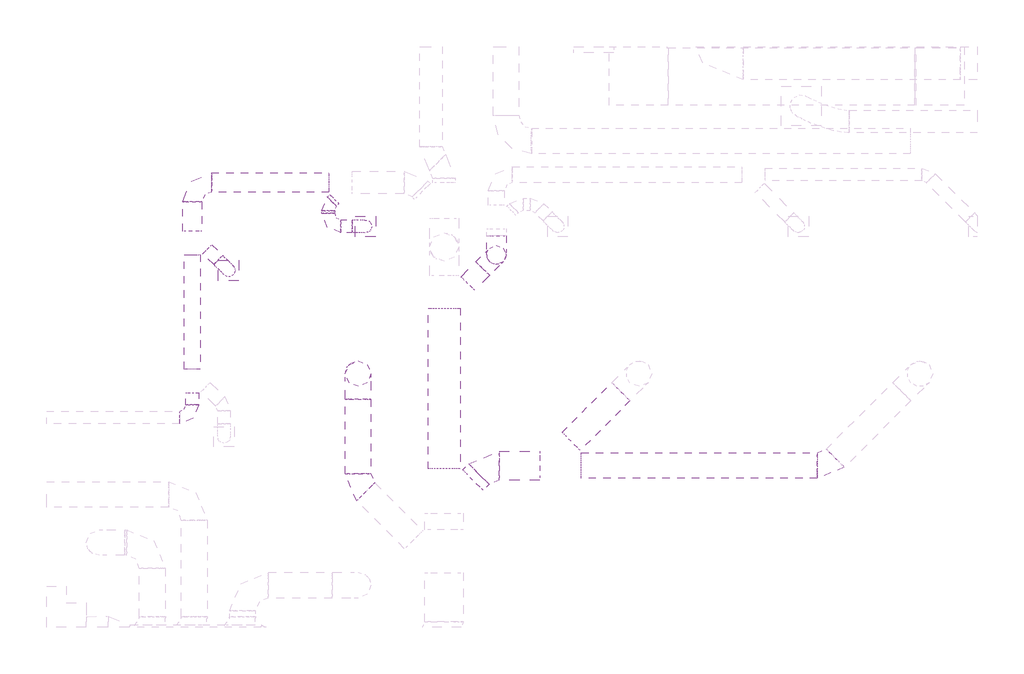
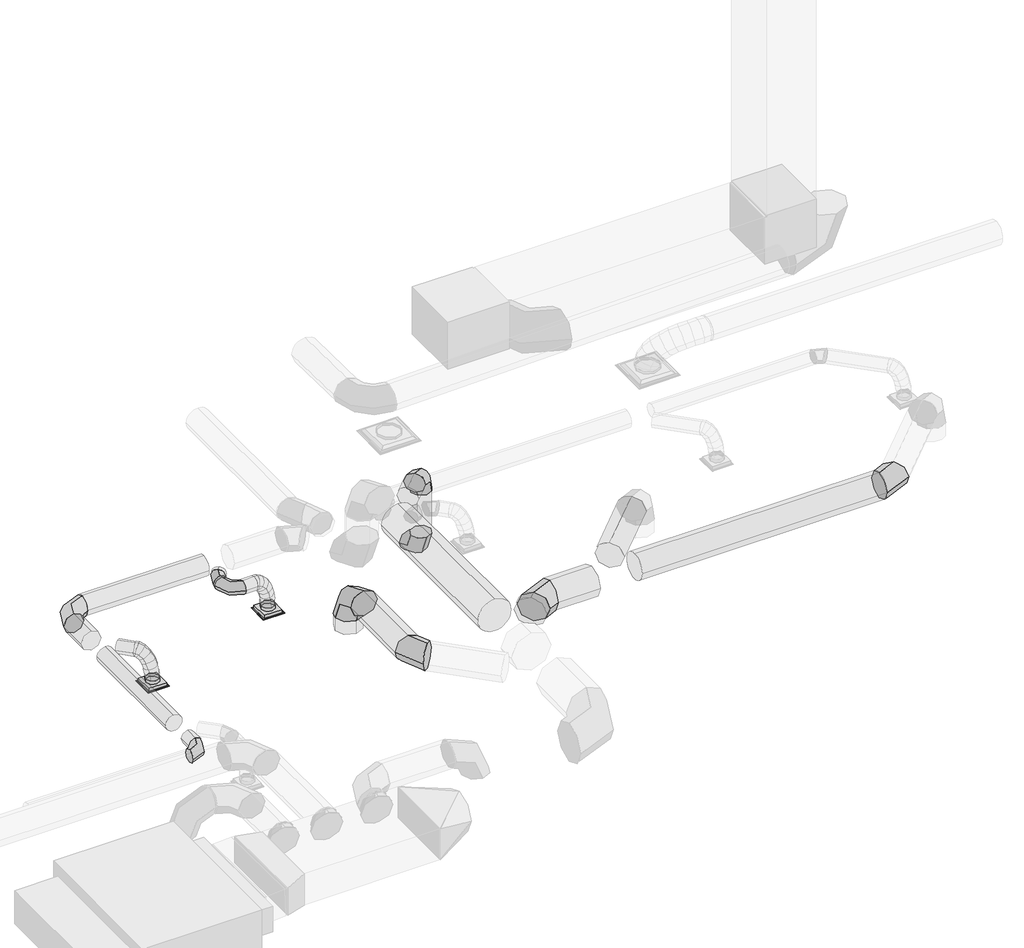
# One storey, part 8 of 33: 19 duct segments, 10 duct fittings, 2 air terminals.
"""IFC4 building model written with IfcOpenShell, lengths in millimetres."""

from ifc_helpers import new_model, si_unit, point, frame, frame_2d, origin, place, context, project, spatial, circle_curve, ellipse_curve, trimmed, segment, composite_curve, outline, extrude, transform, mapped, element, save
from ifc_brep_helpers import plane_surface, cylinder_surface, advanced_brep
from components import air_terminal_0721d01d, round_elbow_1_d_30de4f45, round_elbow_1_d_8aca8b6e, round_elbow_1_d_6b09a4cd, round_elbow_1_d_6f47ea7d, round_elbow_1_d_a253342a, round_elbow_1_d_281bc45b, round_elbow_1_d_ab3aa7ba

model = new_model("IFC4")

# Units and contexts
model_context = context("Model", 3, world=origin())
ifc_project = project(units=[si_unit("LENGTHUNIT", "METRE", prefix="MILLI")], contexts=[model_context])

# Site, building, storey
site = spatial("IfcSite", under=ifc_project)
building = spatial("IfcBuilding", under=site)
storey = spatial("IfcBuildingStorey", under=building, Name="T.O. SLAB - 1ST", Elevation=-25.4)

# Air terminals
placement = place(None, origin())
air_terminal_shape = air_terminal_0721d01d(model_context)
element("IfcAirTerminal", 1, ObjectType="Titus-Round_Neck_Supply_Diffuser-PCS_Surface_Mount : PCS AA-08_12x12", at=placement, inside=storey, context=model_context, shape_type="MappedRepresentation", body=[
    mapped(air_terminal_shape, transform((5671.7172745, 19697.894689, 3022.6), x_axis=(1.0, 0.0, 0.0), y_axis=(0.0, -1.0, 0.0), z_axis=(0.0, 0.0, -1.0))),
])
element("IfcAirTerminal", 2, ObjectType="Titus-Round_Neck_Supply_Diffuser-PCS_Surface_Mount : PCS AA-08_12x12", at=placement, inside=storey, context=model_context, shape_type="MappedRepresentation", body=[
    mapped(air_terminal_shape, transform((7836.0049003, 20392.8311449, 3022.6), x_axis=(1.0, 0.0, 0.0), y_axis=(0.0, -1.0, 0.0), z_axis=(0.0, 0.0, -1.0))),
])

# Duct fittings
round_elbow_1_d_shape = round_elbow_1_d_30de4f45(model_context)
element("IfcDuctFitting", 3, ObjectType="Round Elbow : 1 D", at=placement, inside=storey, context=model_context, shape_type="MappedRepresentation", body=[
    mapped(round_elbow_1_d_shape, transform((7721.5404612, 16306.933318, 4832.35), x_axis=(0.0, -1.0, 0.0), y_axis=(1.0, 0.0, 0.0), z_axis=(0.0, 0.0, 1.0))),
])
round_elbow_1_d_2_shape = round_elbow_1_d_8aca8b6e(model_context)
element("IfcDuctFitting", 4, ObjectType="Round Elbow : 1 D", at=placement, inside=storey, context=model_context, shape_type="MappedRepresentation", body=[
    mapped(round_elbow_1_d_2_shape, transform((7721.5404612, 18061.6910045, 4832.35), x_axis=(0.0, 0.0, 1.0), y_axis=(0.0, -1.0, 0.0), z_axis=(1.0, 0.0, 0.0))),
])
round_elbow_1_d_3_shape = round_elbow_1_d_6b09a4cd(model_context)
element("IfcDuctFitting", 5, ObjectType="Round Elbow : 1 D", at=placement, inside=storey, context=model_context, shape_type="MappedRepresentation", body=[
    mapped(round_elbow_1_d_3_shape, transform((9768.4424448, 16604.0160922, 4832.35), x_axis=(-1.0, 0.0, 0.0), y_axis=(0.0, -1.0, 0.0), z_axis=(0.0, 0.0, 1.0))),
])
round_elbow_1_d_4_shape = round_elbow_1_d_6f47ea7d(model_context)
element("IfcDuctFitting", 6, ObjectType="Round Elbow : 1 D", at=placement, inside=storey, context=model_context, shape_type="MappedRepresentation", body=[
    mapped(round_elbow_1_d_4_shape, transform((15163.0706857, 16604.0160922, 4832.35), x_axis=(1.0, 0.0, 0.0), y_axis=(0.0, 1.0, 0.0), z_axis=(0.0, 0.0, 1.0))),
])
round_elbow_1_d_5_shape = round_elbow_1_d_a253342a(model_context)
element("IfcDuctFitting", 7, ObjectType="Round Elbow : 1 D", at=placement, inside=storey, context=model_context, shape_type="MappedRepresentation", body=[
    mapped(round_elbow_1_d_5_shape, transform((7246.7253102, 20395.6487533, 3530.6), x_axis=(0.0, -1.0, 0.0), y_axis=(1.0, 0.0, 0.0), z_axis=(0.0, 0.0, 1.0))),
])
element("IfcDuctFitting", 8, ObjectType="Round Elbow : 1 D", at=placement, inside=storey, context=model_context, shape_type="MappedRepresentation", body=[
    mapped(round_elbow_1_d_5_shape, transform((5096.4746068, 17366.1965841, 3530.6), x_axis=(1.0, 0.0, 0.0), y_axis=(0.0, 1.0, 0.0), z_axis=(0.0, 0.0, 1.0))),
])
round_elbow_1_d_6_shape = round_elbow_1_d_281bc45b(model_context)
element("IfcDuctFitting", 9, ObjectType="Round Elbow : 1 D", at=placement, inside=storey, context=model_context, shape_type="MappedRepresentation", body=[
    mapped(round_elbow_1_d_6_shape, transform((5096.4746068, 21089.8177486, 3530.6), x_axis=(-1.0, 0.0, 0.0), y_axis=(0.0, -1.0, 0.0), z_axis=(0.0, 0.0, 1.0))),
])
element("IfcDuctFitting", 10, ObjectType="Round Elbow : 1 D", at=placement, inside=storey, context=model_context, shape_type="MappedRepresentation", body=[
    mapped(round_elbow_1_d_6_shape, transform((9912.239654, 19940.9173696, 4832.35), x_axis=(0.7071067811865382, 0.7071067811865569, 0.0), y_axis=(0.0, 0.0, -1.0), z_axis=(-0.7071067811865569, 0.7071067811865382, 0.0))),
])
element("IfcDuctFitting", 11, ObjectType="Round Elbow : 1 D", at=placement, inside=storey, context=model_context, shape_type="MappedRepresentation", body=[
    mapped(round_elbow_1_d_6_shape, transform((9912.239654, 19940.9173696, 3530.6), x_axis=(0.0, 0.0, -1.0), y_axis=(0.0, 1.0, 0.0), z_axis=(1.0, 0.0, 0.0))),
])
round_elbow_1_d_7_shape = round_elbow_1_d_ab3aa7ba(model_context)
element("IfcDuctFitting", 12, ObjectType="Round Elbow : 1 D", at=placement, inside=storey, context=model_context, shape_type="MappedRepresentation", body=[
    mapped(round_elbow_1_d_7_shape, transform((7246.7253102, 20728.0248248, 3530.6), x_axis=(-0.7071067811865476, -0.7071067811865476, 0.0), y_axis=(0.7071067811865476, -0.7071067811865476, 0.0), z_axis=(0.0, 0.0, 1.0))),
])

# Duct segments
element("IfcDuctSegment", 13, ObjectType="Flex - Round", at=placement, inside=storey, context=model_context, shape_type="AdvancedBrep", body=[
    advanced_brep(
    [(5578.3011345, 19934.9949269, 3530.6), (5506.4590856, 19863.152878, 3429.0), (5434.6170366, 19791.310829, 3530.6), (5506.4590856, 19863.152878, 3632.2), (5597.1151702, 19916.1808912, 3530.6), (5510.4922966, 19859.1196669, 3429.0), (5453.4310723, 19772.4967933, 3530.6), (5540.0539459, 19829.5580176, 3632.2), (5743.5593235, 19769.736738, 3117.85), (5743.5593235, 19626.05264, 3117.85), (5599.8752255, 19626.05264, 3117.85), (5599.8752255, 19769.736738, 3117.85), (5629.3616485, 19883.9344129, 3511.0056443), (5518.4315551, 19851.1804084, 3424.175763), (5485.6775506, 19740.250315, 3511.0056443), (5596.607644, 19773.0043195, 3597.8355257), (5670.8343835, 19842.4616779, 3458.7258396), (5543.0613324, 19826.5506311, 3393.1278963), (5527.1502856, 19698.77758, 3458.7258396), (5654.9233367, 19714.6886268, 3524.323783), (5702.854929, 19810.4411324, 3383.5154794), (5565.8691269, 19803.7428366, 3339.5565904), (5559.1708311, 19666.7570345, 3383.5154794), (5696.1566333, 19673.4553303, 3427.4743683), (5725.5588745, 19787.7371869, 3295.129457), (5584.4344389, 19785.1775246, 3267.2821883), (5581.8747766, 19644.053089, 3295.129457), (5722.9992122, 19646.6127514, 3322.9767258), (5739.0818095, 19774.214252, 3203.3226661), (5595.9954943, 19773.6164692, 3188.7945376), (5595.3977115, 19630.530154, 3203.3226661), (5738.4840267, 19631.1279368, 3217.8507946), (5743.5593235, 19769.736738, 3125.3563682), (5599.8752255, 19769.736738, 3121.237344), (5599.8752255, 19626.05264, 3125.3563682), (5743.5593235, 19626.05264, 3129.4753924)],
    [
        (0, 1, circle_curve(frame((5506.4590856, 19863.152878, 3530.6), z_axis=(-0.7071067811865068, 0.7071067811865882, 0.0), x_axis=(0.7071067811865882, 0.7071067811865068, 0.0)), 101.6)),
        (1, 2, circle_curve(frame((5506.4590856, 19863.152878, 3530.6), z_axis=(-0.7071067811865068, 0.7071067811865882, 0.0), x_axis=(0.7071067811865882, 0.7071067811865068, 0.0)), 101.6)),
        (2, 3, circle_curve(frame((5506.4590856, 19863.152878, 3530.6), z_axis=(-0.7071067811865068, 0.7071067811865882, 0.0), x_axis=(0.7071067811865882, 0.7071067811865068, 0.0)), 101.6)),
        (3, 0, circle_curve(frame((5506.4590856, 19863.152878, 3530.6), z_axis=(-0.7071067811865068, 0.7071067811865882, 0.0), x_axis=(0.7071067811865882, 0.7071067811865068, 0.0)), 101.6)),
        (0, 4),
        (4, 5, ellipse_curve(frame((5525.2731213, 19844.3388422, 3530.6), z_axis=(-0.6926001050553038, 0.6926001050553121, 0.20151969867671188), x_axis=(-0.14249594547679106, 0.14249594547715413, -0.979484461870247)), 103.7280365, 101.6)),
        (5, 1),
        (5, 6, ellipse_curve(frame((5525.2731213, 19844.3388422, 3530.6), z_axis=(-0.6926001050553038, 0.6926001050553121, 0.20151969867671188), x_axis=(-0.14249594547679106, 0.14249594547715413, -0.979484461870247)), 103.7280365, 101.6)),
        (6, 2),
        (6, 7, ellipse_curve(frame((5525.2731213, 19844.3388422, 3530.6), z_axis=(-0.6926001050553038, 0.6926001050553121, 0.20151969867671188), x_axis=(-0.14249594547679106, 0.14249594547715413, -0.979484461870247)), 103.7280365, 101.6)),
        (7, 3),
        (7, 4, ellipse_curve(frame((5525.2731213, 19844.3388422, 3530.6), z_axis=(-0.6926001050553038, 0.6926001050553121, 0.20151969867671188), x_axis=(-0.14249594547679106, 0.14249594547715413, -0.979484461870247)), 103.7280365, 101.6)),
        (8, 9, circle_curve(frame((5671.7172745, 19697.894689, 3117.85), z_axis=(0.0, 0.0, -1.0), x_axis=(0.7071067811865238, 0.7071067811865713, 0.0)), 101.6)),
        (9, 10, circle_curve(frame((5671.7172745, 19697.894689, 3117.85), z_axis=(0.0, 0.0, -1.0), x_axis=(0.7071067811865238, 0.7071067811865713, 0.0)), 101.6)),
        (10, 11, circle_curve(frame((5671.7172745, 19697.894689, 3117.85), z_axis=(0.0, 0.0, -1.0), x_axis=(0.7071067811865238, 0.7071067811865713, 0.0)), 101.6)),
        (11, 8, circle_curve(frame((5671.7172745, 19697.894689, 3117.85), z_axis=(0.0, 0.0, -1.0), x_axis=(0.7071067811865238, 0.7071067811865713, 0.0)), 101.6)),
        (4, 12),
        (12, 13, ellipse_curve(frame((5557.5195996, 19812.0923639, 3511.0056443), z_axis=(-0.5964857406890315, 0.5964857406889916, 0.5370377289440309), x_axis=(-0.37974301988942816, 0.3797430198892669, -0.8435582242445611)), 102.9328846, 101.6)),
        (13, 5),
        (13, 14, ellipse_curve(frame((5557.5195996, 19812.0923639, 3511.0056443), z_axis=(-0.5964857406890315, 0.5964857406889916, 0.5370377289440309), x_axis=(-0.37974301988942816, 0.3797430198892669, -0.8435582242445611)), 102.9328846, 101.6)),
        (14, 6),
        (14, 15, ellipse_curve(frame((5557.5195996, 19812.0923639, 3511.0056443), z_axis=(-0.5964857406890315, 0.5964857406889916, 0.5370377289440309), x_axis=(-0.37974301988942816, 0.3797430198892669, -0.8435582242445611)), 102.9328846, 101.6)),
        (15, 7),
        (15, 12, ellipse_curve(frame((5557.5195996, 19812.0923639, 3511.0056443), z_axis=(-0.5964857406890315, 0.5964857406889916, 0.5370377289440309), x_axis=(-0.37974301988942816, 0.3797430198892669, -0.8435582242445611)), 102.9328846, 101.6)),
        (12, 16),
        (16, 17, ellipse_curve(frame((5598.9923346, 19770.6196289, 3458.7258396), z_axis=(-0.45138859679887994, 0.4513885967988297, 0.7697380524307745), x_axis=(-0.5442869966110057, 0.5442869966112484, -0.638359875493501)), 102.7601293, 101.6)),
        (17, 13),
        (17, 18, ellipse_curve(frame((5598.9923346, 19770.6196289, 3458.7258396), z_axis=(-0.45138859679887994, 0.4513885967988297, 0.7697380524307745), x_axis=(-0.5442869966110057, 0.5442869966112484, -0.638359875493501)), 102.7601293, 101.6)),
        (18, 14),
        (18, 19, ellipse_curve(frame((5598.9923346, 19770.6196289, 3458.7258396), z_axis=(-0.45138859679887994, 0.4513885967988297, 0.7697380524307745), x_axis=(-0.5442869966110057, 0.5442869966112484, -0.638359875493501)), 102.7601293, 101.6)),
        (19, 15),
        (19, 16, ellipse_curve(frame((5598.9923346, 19770.6196289, 3458.7258396), z_axis=(-0.45138859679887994, 0.4513885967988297, 0.7697380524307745), x_axis=(-0.5442869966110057, 0.5442869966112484, -0.638359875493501)), 102.7601293, 101.6)),
        (16, 20),
        (20, 21, ellipse_curve(frame((5631.0128801, 19738.5990835, 3383.5154794), z_axis=(-0.30451030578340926, 0.3045103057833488, 0.9025225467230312), x_axis=(-0.6381798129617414, 0.6381798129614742, -0.43064260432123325)), 102.0774269, 101.6)),
        (21, 17),
        (21, 22, ellipse_curve(frame((5631.0128801, 19738.5990835, 3383.5154794), z_axis=(-0.30451030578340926, 0.3045103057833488, 0.9025225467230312), x_axis=(-0.6381798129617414, 0.6381798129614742, -0.43064260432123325)), 102.0774269, 101.6)),
        (22, 18),
        (22, 23, ellipse_curve(frame((5631.0128801, 19738.5990835, 3383.5154794), z_axis=(-0.30451030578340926, 0.3045103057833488, 0.9025225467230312), x_axis=(-0.6381798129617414, 0.6381798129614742, -0.43064260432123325)), 102.0774269, 101.6)),
        (23, 19),
        (23, 20, ellipse_curve(frame((5631.0128801, 19738.5990835, 3383.5154794), z_axis=(-0.30451030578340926, 0.3045103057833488, 0.9025225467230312), x_axis=(-0.6381798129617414, 0.6381798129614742, -0.43064260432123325)), 102.0774269, 101.6)),
        (20, 24),
        (24, 25, ellipse_curve(frame((5653.7168255, 19715.895138, 3295.129457), z_axis=(-0.1933132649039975, 0.19331326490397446, 0.9619043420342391), x_axis=(-0.6801690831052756, 0.6801690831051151, -0.27338624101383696)), 101.8605349, 101.6)),
        (25, 21),
        (25, 26, ellipse_curve(frame((5653.7168255, 19715.895138, 3295.129457), z_axis=(-0.1933132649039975, 0.19331326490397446, 0.9619043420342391), x_axis=(-0.6801690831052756, 0.6801690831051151, -0.27338624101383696)), 101.8605349, 101.6)),
        (26, 22),
        (26, 27, ellipse_curve(frame((5653.7168255, 19715.895138, 3295.129457), z_axis=(-0.1933132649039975, 0.19331326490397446, 0.9619043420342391), x_axis=(-0.6801690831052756, 0.6801690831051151, -0.27338624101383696)), 101.8605349, 101.6)),
        (27, 23),
        (27, 24, ellipse_curve(frame((5653.7168255, 19715.895138, 3295.129457), z_axis=(-0.1933132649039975, 0.19331326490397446, 0.9619043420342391), x_axis=(-0.6801690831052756, 0.6801690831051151, -0.27338624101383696)), 101.8605349, 101.6)),
        (24, 28),
        (28, 29, ellipse_curve(frame((5667.2397605, 19702.372203, 3203.3226661), z_axis=(-0.10091627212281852, 0.10091627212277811, 0.9897635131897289), x_axis=(-0.6998684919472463, 0.6998684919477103, -0.14271716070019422)), 101.7966475, 101.6)),
        (29, 25),
        (29, 30, ellipse_curve(frame((5667.2397605, 19702.372203, 3203.3226661), z_axis=(-0.10091627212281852, 0.10091627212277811, 0.9897635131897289), x_axis=(-0.6998684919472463, 0.6998684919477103, -0.14271716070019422)), 101.7966475, 101.6)),
        (30, 26),
        (30, 31, ellipse_curve(frame((5667.2397605, 19702.372203, 3203.3226661), z_axis=(-0.10091627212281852, 0.10091627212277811, 0.9897635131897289), x_axis=(-0.6998684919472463, 0.6998684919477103, -0.14271716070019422)), 101.7966475, 101.6)),
        (31, 27),
        (31, 28, ellipse_curve(frame((5667.2397605, 19702.372203, 3203.3226661), z_axis=(-0.10091627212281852, 0.10091627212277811, 0.9897635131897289), x_axis=(-0.6998684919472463, 0.6998684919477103, -0.14271716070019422)), 101.7966475, 101.6)),
        (28, 32),
        (32, 33, ellipse_curve(frame((5671.7172745, 19697.894689, 3125.3563682), z_axis=(-0.028643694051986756, 0.02864369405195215, 0.9991792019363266), x_axis=(-0.7065263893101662, 0.7065263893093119, -0.04050830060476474)), 101.6834616, 101.6)),
        (33, 29),
        (33, 34, ellipse_curve(frame((5671.7172745, 19697.894689, 3125.3563682), z_axis=(-0.028643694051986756, 0.02864369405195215, 0.9991792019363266), x_axis=(-0.7065263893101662, 0.7065263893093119, -0.04050830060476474)), 101.6834616, 101.6)),
        (34, 30),
        (34, 35, ellipse_curve(frame((5671.7172745, 19697.894689, 3125.3563682), z_axis=(-0.028643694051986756, 0.02864369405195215, 0.9991792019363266), x_axis=(-0.7065263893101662, 0.7065263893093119, -0.04050830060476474)), 101.6834616, 101.6)),
        (35, 31),
        (35, 32, ellipse_curve(frame((5671.7172745, 19697.894689, 3125.3563682), z_axis=(-0.028643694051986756, 0.02864369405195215, 0.9991792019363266), x_axis=(-0.7065263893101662, 0.7065263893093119, -0.04050830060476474)), 101.6834616, 101.6)),
        (32, 8),
        (11, 33),
        (10, 34),
        (9, 35),
    ],
    [
        plane_surface(frame((5506.4590856, 19863.152878, 3429.0), z_axis=(-0.7071067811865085, 0.7071067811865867, 0.0), x_axis=(0.7071067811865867, 0.7071067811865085, 0.0))),
        cylinder_surface(frame((5506.4590856, 19863.152878, 3530.6), z_axis=(-0.7071067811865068, 0.7071067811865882, 0.0), x_axis=(0.7071067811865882, 0.7071067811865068, 0.0)), 101.6),
        plane_surface(frame((5671.7172745, 19596.294689, 3117.85), z_axis=(0.0, 0.0, -1.0), x_axis=(-1.0, 0.0, 0.0))),
        cylinder_surface(frame((5525.2731213, 19844.3388422, 3530.6), z_axis=(-0.6496753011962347, 0.6496753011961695, 0.39477082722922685), x_axis=(0.7071067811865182, 0.7071067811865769, 0.0)), 101.6),
        cylinder_surface(frame((5557.5195996, 19812.0923639, 3511.0056443), z_axis=(-0.5278483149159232, 0.5278483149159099, 0.6653963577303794), x_axis=(0.7071067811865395, 0.7071067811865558, 0.0)), 101.6),
        cylinder_surface(frame((5598.9923346, 19770.6196289, 3458.7258396), z_axis=(-0.3647368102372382, 0.3647368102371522, 0.8566995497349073), x_axis=(0.7071067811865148, 0.7071067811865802, 0.0)), 101.6),
        cylinder_surface(frame((5631.0128801, 19738.5990835, 3383.5154794), z_axis=(-0.24143534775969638, 0.24143534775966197, 0.9399031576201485), x_axis=(0.7071067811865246, 0.7071067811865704, 0.0)), 101.6),
        cylinder_surface(frame((5653.7168255, 19715.895138, 3295.129457), z_axis=(-0.14420228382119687, 0.14420228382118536, 0.978984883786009), x_axis=(0.7071067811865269, 0.7071067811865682, 0.0)), 101.6),
        cylinder_surface(frame((5667.2397605, 19702.372203, 3203.3226661), z_axis=(-0.05724036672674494, 0.05724036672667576, 0.9967181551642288), x_axis=(0.7071067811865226, 0.7071067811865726, 0.0)), 101.6),
        cylinder_surface(frame((5671.7172745, 19697.894689, 3125.3563682), z_axis=(0.0, 0.0, 1.0), x_axis=(0.7071067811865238, 0.7071067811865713, 0.0)), 101.6),
    ],
    [
        (0, [[1, 2, 3, 4]]),
        (1, [[-1, 5, 6, 7]]),
        (1, [[-2, -7, 8, 9]]),
        (1, [[-3, -9, 10, 11]]),
        (1, [[-4, -11, 12, -5]]),
        (2, [[13, 14, 15, 16]]),
        (3, [[-6, 17, 18, 19]]),
        (3, [[-8, -19, 20, 21]]),
        (3, [[-10, -21, 22, 23]]),
        (3, [[-12, -23, 24, -17]]),
        (4, [[-18, 25, 26, 27]]),
        (4, [[-20, -27, 28, 29]]),
        (4, [[-22, -29, 30, 31]]),
        (4, [[-24, -31, 32, -25]]),
        (5, [[-26, 33, 34, 35]]),
        (5, [[-28, -35, 36, 37]]),
        (5, [[-30, -37, 38, 39]]),
        (5, [[-32, -39, 40, -33]]),
        (6, [[-34, 41, 42, 43]]),
        (6, [[-36, -43, 44, 45]]),
        (6, [[-38, -45, 46, 47]]),
        (6, [[-40, -47, 48, -41]]),
        (7, [[-42, 49, 50, 51]]),
        (7, [[-44, -51, 52, 53]]),
        (7, [[-46, -53, 54, 55]]),
        (7, [[-48, -55, 56, -49]]),
        (8, [[-50, 57, 58, 59]]),
        (8, [[-52, -59, 60, 61]]),
        (8, [[-54, -61, 62, 63]]),
        (8, [[-56, -63, 64, -57]]),
        (9, [[-58, 65, -16, 66]]),
        (9, [[-60, -66, -15, 67]]),
        (9, [[-62, -67, -14, 68]]),
        (9, [[-64, -68, -13, -65]]),
    ],
),
])
element("IfcDuctSegment", 14, ObjectType="Flex - Round", at=placement, inside=storey, context=model_context, shape_type="AdvancedBrep", body=[
    advanced_brep(
    [(7632.8051157, 20497.2487533, 3530.6), (7632.8051157, 20395.6487533, 3429.0), (7632.8051157, 20294.0487533, 3530.6), (7632.8051157, 20395.6487533, 3632.2), (7661.5088545, 20497.2487533, 3530.6), (7637.2726559, 20395.6487533, 3429.0), (7661.006361, 20294.0487533, 3530.6), (7685.2425596, 20395.6487533, 3632.2), (7836.8313144, 20494.4277838, 3117.85), (7937.6015392, 20392.0047307, 3117.85), (7835.1784861, 20291.2345059, 3117.85), (7734.4082613, 20393.657559, 3117.85), (7701.7169846, 20497.0381538, 3510.4953874), (7640.7160883, 20395.6307175, 3427.2782369), (7700.49366, 20293.8419293, 3510.8558128), (7761.4945563, 20395.2493656, 3594.0729632), (7754.445882, 20496.5144899, 3457.2980356), (7670.1595865, 20395.3383067, 3397.5731566), (7752.8430297, 20293.3220346, 3458.0413604), (7837.1293253, 20394.4982177, 3517.7662394), (7792.7795757, 20495.8350263, 3381.2327951), (7696.8986392, 20394.8643578, 3344.515069), (7791.0469211, 20292.6448718, 3382.2336857), (7886.9278575, 20393.6155403, 3418.9514119), (7818.2649093, 20495.1568157, 3292.5301284), (7717.9930078, 20394.3029987, 3271.0953218), (7816.5399545, 20291.9664562, 3293.5042193), (7916.811856, 20392.8202732, 3314.9390259), (7832.4417219, 20494.6358996, 3201.3365269), (7730.4452052, 20393.8454523, 3190.9954606), (7830.7637552, 20291.4438136, 3202.0083628), (7932.7602719, 20392.2342609, 3212.3494291), (7836.8313144, 20494.4277838, 3123.0726068), (7734.4082613, 20393.657559, 3120.3364399), (7835.1784861, 20291.2345059, 3123.2962406), (7937.6015392, 20392.0047307, 3126.0324074)],
    [
        (0, 1, circle_curve(frame((7632.8051157, 20395.6487533, 3530.6), z_axis=(-1.0, 0.0, 0.0), x_axis=(0.0, 1.0, 0.0)), 101.6)),
        (1, 2, circle_curve(frame((7632.8051157, 20395.6487533, 3530.6), z_axis=(-1.0, 0.0, 0.0), x_axis=(0.0, 1.0, 0.0)), 101.6)),
        (2, 3, circle_curve(frame((7632.8051157, 20395.6487533, 3530.6), z_axis=(-1.0, 0.0, 0.0), x_axis=(0.0, 1.0, 0.0)), 101.6)),
        (3, 0, circle_curve(frame((7632.8051157, 20395.6487533, 3530.6), z_axis=(-1.0, 0.0, 0.0), x_axis=(0.0, 1.0, 0.0)), 101.6)),
        (0, 4),
        (4, 5, ellipse_curve(frame((7661.2576077, 20395.6487533, 3530.6), z_axis=(-0.9732452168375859, 0.0024067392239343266, 0.22975629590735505), x_axis=(-0.22976890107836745, -0.010194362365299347, -0.9731918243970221)), 104.3930124, 101.6)),
        (5, 1),
        (5, 6, ellipse_curve(frame((7661.2576077, 20395.6487533, 3530.6), z_axis=(-0.9732452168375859, 0.0024067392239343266, 0.22975629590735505), x_axis=(-0.22976890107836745, -0.010194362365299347, -0.9731918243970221)), 104.3930124, 101.6)),
        (6, 2),
        (6, 7, ellipse_curve(frame((7661.2576077, 20395.6487533, 3530.6), z_axis=(-0.9732452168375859, 0.0024067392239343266, 0.22975629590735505), x_axis=(-0.22976890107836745, -0.010194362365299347, -0.9731918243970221)), 104.3930124, 101.6)),
        (7, 3),
        (7, 4, ellipse_curve(frame((7661.2576077, 20395.6487533, 3530.6), z_axis=(-0.9732452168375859, 0.0024067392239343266, 0.22975629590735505), x_axis=(-0.22976890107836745, -0.010194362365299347, -0.9731918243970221)), 104.3930124, 101.6)),
        (8, 9, circle_curve(frame((7836.0049003, 20392.8311449, 3117.85), z_axis=(0.0, 0.0, -1.0), x_axis=(0.008133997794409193, 0.9999669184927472, 0.0)), 101.6)),
        (9, 10, circle_curve(frame((7836.0049003, 20392.8311449, 3117.85), z_axis=(0.0, 0.0, -1.0), x_axis=(0.008133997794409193, 0.9999669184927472, 0.0)), 101.6)),
        (10, 11, circle_curve(frame((7836.0049003, 20392.8311449, 3117.85), z_axis=(0.0, 0.0, -1.0), x_axis=(0.008133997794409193, 0.9999669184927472, 0.0)), 101.6)),
        (11, 8, circle_curve(frame((7836.0049003, 20392.8311449, 3117.85), z_axis=(0.0, 0.0, -1.0), x_axis=(0.008133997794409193, 0.9999669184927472, 0.0)), 101.6)),
        (4, 12),
        (12, 13, ellipse_curve(frame((7701.1053223, 20395.4400415, 3510.6756001), z_axis=(-0.8099305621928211, 0.005916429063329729, 0.5864959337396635), x_axis=(-0.5865254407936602, -0.007102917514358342, -0.8098996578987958)), 102.9662039, 101.6)),
        (13, 5),
        (13, 14, ellipse_curve(frame((7701.1053223, 20395.4400415, 3510.6756001), z_axis=(-0.8099305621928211, 0.005916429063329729, 0.5864959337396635), x_axis=(-0.5865254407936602, -0.007102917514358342, -0.8098996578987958)), 102.9662039, 101.6)),
        (14, 6),
        (14, 15, ellipse_curve(frame((7701.1053223, 20395.4400415, 3510.6756001), z_axis=(-0.8099305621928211, 0.005916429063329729, 0.5864959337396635), x_axis=(-0.5865254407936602, -0.007102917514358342, -0.8098996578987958)), 102.9662039, 101.6)),
        (15, 7),
        (15, 12, ellipse_curve(frame((7701.1053223, 20395.4400415, 3510.6756001), z_axis=(-0.8099305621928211, 0.005916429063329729, 0.5864959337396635), x_axis=(-0.5865254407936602, -0.007102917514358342, -0.8098996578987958)), 102.9662039, 101.6)),
        (12, 16),
        (16, 17, ellipse_curve(frame((7753.6444559, 20394.9182622, 3457.669698), z_axis=(-0.5841823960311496, 0.007577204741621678, 0.8115870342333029), x_axis=(-0.8116202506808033, -0.003149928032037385, -0.5841768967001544)), 102.8664573, 101.6)),
        (17, 13),
        (17, 18, ellipse_curve(frame((7753.6444559, 20394.9182622, 3457.669698), z_axis=(-0.5841823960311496, 0.007577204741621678, 0.8115870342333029), x_axis=(-0.8116202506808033, -0.003149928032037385, -0.5841768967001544)), 102.8664573, 101.6)),
        (18, 14),
        (18, 19, ellipse_curve(frame((7753.6444559, 20394.9182622, 3457.669698), z_axis=(-0.5841823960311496, 0.007577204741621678, 0.8115870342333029), x_axis=(-0.8116202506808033, -0.003149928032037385, -0.5841768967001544)), 102.8664573, 101.6)),
        (19, 15),
        (19, 16, ellipse_curve(frame((7753.6444559, 20394.9182622, 3457.669698), z_axis=(-0.5841823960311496, 0.007577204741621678, 0.8115870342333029), x_axis=(-0.8116202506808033, -0.003149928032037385, -0.5841768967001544)), 102.8664573, 101.6)),
        (16, 20),
        (20, 21, ellipse_curve(frame((7791.9132484, 20394.2399491, 3381.7332404), z_axis=(-0.3646722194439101, 0.007696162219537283, 0.9311041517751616), x_axis=(-0.9311170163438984, 0.003364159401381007, -0.3647050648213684)), 102.0458662, 101.6)),
        (21, 17),
        (21, 22, ellipse_curve(frame((7791.9132484, 20394.2399491, 3381.7332404), z_axis=(-0.3646722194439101, 0.007696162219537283, 0.9311041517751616), x_axis=(-0.9311170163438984, 0.003364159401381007, -0.3647050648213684)), 102.0458662, 101.6)),
        (22, 18),
        (22, 23, ellipse_curve(frame((7791.9132484, 20394.2399491, 3381.7332404), z_axis=(-0.3646722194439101, 0.007696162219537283, 0.9311041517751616), x_axis=(-0.9311170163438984, 0.003364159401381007, -0.3647050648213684)), 102.0458662, 101.6)),
        (23, 19),
        (23, 20, ellipse_curve(frame((7791.9132484, 20394.2399491, 3381.7332404), z_axis=(-0.3646722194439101, 0.007696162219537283, 0.9311041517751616), x_axis=(-0.9311170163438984, 0.003364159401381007, -0.3647050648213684)), 102.0458662, 101.6)),
        (20, 24),
        (24, 25, ellipse_curve(frame((7817.4024319, 20393.5616359, 3293.0171738), z_axis=(-0.21529606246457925, 0.006509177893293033, 0.9765271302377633), x_axis=(-0.9764387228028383, 0.013580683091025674, -0.21536709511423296)), 101.8005522, 101.6)),
        (25, 21),
        (25, 26, ellipse_curve(frame((7817.4024319, 20393.5616359, 3293.0171738), z_axis=(-0.21529606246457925, 0.006509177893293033, 0.9765271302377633), x_axis=(-0.9764387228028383, 0.013580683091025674, -0.21536709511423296)), 101.8005522, 101.6)),
        (26, 22),
        (26, 27, ellipse_curve(frame((7817.4024319, 20393.5616359, 3293.0171738), z_axis=(-0.21529606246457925, 0.006509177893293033, 0.9765271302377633), x_axis=(-0.9764387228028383, 0.013580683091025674, -0.21536709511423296)), 101.8005522, 101.6)),
        (27, 23),
        (27, 24, ellipse_curve(frame((7817.4024319, 20393.5616359, 3293.0171738), z_axis=(-0.21529606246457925, 0.006509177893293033, 0.9765271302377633), x_axis=(-0.9764387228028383, 0.013580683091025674, -0.21536709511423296)), 101.8005522, 101.6)),
        (24, 28),
        (28, 29, ellipse_curve(frame((7831.6027385, 20393.0398566, 3201.6724448), z_axis=(-0.10493140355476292, 0.00415465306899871, 0.9944707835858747), x_axis=(-0.9940052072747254, 0.030441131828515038, -0.10500945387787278)), 101.7226927, 101.6)),
        (29, 25),
        (29, 30, ellipse_curve(frame((7831.6027385, 20393.0398566, 3201.6724448), z_axis=(-0.10493140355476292, 0.00415465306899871, 0.9944707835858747), x_axis=(-0.9940052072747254, 0.030441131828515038, -0.10500945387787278)), 101.7226927, 101.6)),
        (30, 26),
        (30, 31, ellipse_curve(frame((7831.6027385, 20393.0398566, 3201.6724448), z_axis=(-0.10493140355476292, 0.00415465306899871, 0.9944707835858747), x_axis=(-0.9940052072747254, 0.030441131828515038, -0.10500945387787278)), 101.7226927, 101.6)),
        (31, 27),
        (31, 28, ellipse_curve(frame((7831.6027385, 20393.0398566, 3201.6724448), z_axis=(-0.10493140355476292, 0.00415465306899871, 0.9944707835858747), x_axis=(-0.9940052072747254, 0.030441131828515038, -0.10500945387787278)), 101.7226927, 101.6)),
        (28, 32),
        (32, 33, ellipse_curve(frame((7836.0049003, 20392.8311449, 3123.1844237), z_axis=(-0.028010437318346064, 0.0013280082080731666, 0.9996067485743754), x_axis=(-0.9984851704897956, 0.047339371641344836, -0.028041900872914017)), 101.6399701, 101.6)),
        (33, 29),
        (33, 34, ellipse_curve(frame((7836.0049003, 20392.8311449, 3123.1844237), z_axis=(-0.028010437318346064, 0.0013280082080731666, 0.9996067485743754), x_axis=(-0.9984851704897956, 0.047339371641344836, -0.028041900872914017)), 101.6399701, 101.6)),
        (34, 30),
        (34, 35, ellipse_curve(frame((7836.0049003, 20392.8311449, 3123.1844237), z_axis=(-0.028010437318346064, 0.0013280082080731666, 0.9996067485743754), x_axis=(-0.9984851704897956, 0.047339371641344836, -0.028041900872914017)), 101.6399701, 101.6)),
        (35, 31),
        (35, 32, ellipse_curve(frame((7836.0049003, 20392.8311449, 3123.1844237), z_axis=(-0.028010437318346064, 0.0013280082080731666, 0.9996067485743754), x_axis=(-0.9984851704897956, 0.047339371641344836, -0.028041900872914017)), 101.6399701, 101.6)),
        (32, 8),
        (11, 33),
        (10, 34),
        (9, 35),
    ],
    [
        plane_surface(frame((7632.8051157, 20395.6487533, 3429.0), z_axis=(-1.0, 0.0, 0.0), x_axis=(0.0, 1.0, 0.0))),
        cylinder_surface(frame((7632.8051157, 20395.6487533, 3530.6), z_axis=(-1.0, 0.0, 0.0), x_axis=(0.0, 1.0, 0.0)), 101.6),
        plane_surface(frame((7836.0049003, 20291.2311449, 3117.85), z_axis=(0.0, 0.0, -1.0), x_axis=(-1.0, 0.0, 0.0))),
        cylinder_surface(frame((7661.2576077, 20395.6487533, 3530.6), z_axis=(-0.8944125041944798, 0.004684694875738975, 0.44721843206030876), x_axis=(0.004684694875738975, 0.9999884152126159, -0.0011059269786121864)), 101.6),
        cylinder_surface(frame((7701.1053223, 20395.4400415, 3510.6756001), z_axis=(-0.703955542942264, 0.006991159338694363, 0.7102096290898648), x_axis=(0.007071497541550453, 0.9999709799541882, -0.0028342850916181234)), 101.6),
        cylinder_surface(frame((7753.6444559, 20394.9182622, 3457.669698), z_axis=(-0.4500247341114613, 0.007976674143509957, 0.892980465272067), x_axis=(0.0084100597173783, 0.9999536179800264, -0.004693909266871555)), 101.6),
        cylinder_surface(frame((7791.9132484, 20394.2399491, 3381.7332404), z_axis=(-0.276132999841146, 0.007348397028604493, 0.9610913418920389), x_axis=(0.008598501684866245, 0.9999496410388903, -0.005175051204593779)), 101.6),
        cylinder_surface(frame((7817.4024319, 20393.5616359, 3293.0171738), z_axis=(-0.15361083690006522, 0.0056443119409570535, 0.9881153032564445), x_axis=(0.00842800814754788, 0.9999547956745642, -0.004401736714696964)), 101.6),
        cylinder_surface(frame((7831.6027385, 20393.0398566, 3201.6724448), z_axis=(-0.05599884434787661, 0.0026549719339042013, 0.9984273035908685), x_axis=(0.008195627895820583, 0.9999639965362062, -0.002199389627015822)), 101.6),
        cylinder_surface(frame((7836.0049003, 20392.8311449, 3123.1844237), z_axis=(0.0, 0.0, 1.0), x_axis=(0.008133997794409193, 0.9999669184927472, 0.0)), 101.6),
    ],
    [
        (0, [[1, 2, 3, 4]]),
        (1, [[-1, 5, 6, 7]]),
        (1, [[-2, -7, 8, 9]]),
        (1, [[-3, -9, 10, 11]]),
        (1, [[-4, -11, 12, -5]]),
        (2, [[13, 14, 15, 16]]),
        (3, [[-6, 17, 18, 19]]),
        (3, [[-8, -19, 20, 21]]),
        (3, [[-10, -21, 22, 23]]),
        (3, [[-12, -23, 24, -17]]),
        (4, [[-18, 25, 26, 27]]),
        (4, [[-20, -27, 28, 29]]),
        (4, [[-22, -29, 30, 31]]),
        (4, [[-24, -31, 32, -25]]),
        (5, [[-26, 33, 34, 35]]),
        (5, [[-28, -35, 36, 37]]),
        (5, [[-30, -37, 38, 39]]),
        (5, [[-32, -39, 40, -33]]),
        (6, [[-34, 41, 42, 43]]),
        (6, [[-36, -43, 44, 45]]),
        (6, [[-38, -45, 46, 47]]),
        (6, [[-40, -47, 48, -41]]),
        (7, [[-42, 49, 50, 51]]),
        (7, [[-44, -51, 52, 53]]),
        (7, [[-46, -53, 54, 55]]),
        (7, [[-48, -55, 56, -49]]),
        (8, [[-50, 57, 58, 59]]),
        (8, [[-52, -59, 60, 61]]),
        (8, [[-54, -61, 62, 63]]),
        (8, [[-56, -63, 64, -57]]),
        (9, [[-58, 65, -16, 66]]),
        (9, [[-60, -66, -15, 67]]),
        (9, [[-62, -67, -14, 68]]),
        (9, [[-64, -68, -13, -65]]),
    ],
),
])
element("IfcDuctSegment", 15, ObjectType="Taps", at=placement, inside=storey, context=model_context, shape_type="SweptSolid", body=[
    extrude(outline(composite_curve([segment(trimmed(circle_curve(frame_2d((4832.35, 7721.5404612)), 203.2), [point((4832.35, 7518.3404612))], [point((4629.15, 7721.5404612))], False, "CARTESIAN"), True, "CONTINUOUS"), segment(trimmed(circle_curve(frame_2d((4832.35, 7721.5404612)), 203.2), [point((4629.15, 7721.5404612))], [point((4832.35, 7924.7404612))], False, "CARTESIAN"), True, "CONTINUOUS"), segment(trimmed(circle_curve(frame_2d((4832.35, 7721.5404612)), 203.2), [point((4832.35, 7924.7404612))], [point((5035.55, 7721.5404612))], False, "CARTESIAN"), True, "CONTINUOUS"), segment(trimmed(circle_curve(frame_2d((4832.35, 7721.5404612)), 203.2), [point((5035.55, 7721.5404612))], [point((4832.35, 7518.3404612))], False, "CARTESIAN"), True, "CONTINUOUS")], self_intersect=False)), frame((0.0, 16475.2697097, 0.0), z_axis=(0.0, 1.0, 0.0), x_axis=(0.0, 0.0, 1.0)), (0.0, 0.0, 1.0), 1180.0212948),
])
element("IfcDuctSegment", 16, ObjectType="Taps", at=placement, inside=storey, context=model_context, shape_type="SweptSolid", body=[
    extrude(outline(composite_curve([segment(trimmed(circle_curve(frame_2d((7721.5404612, 18061.6910045)), 203.2), [point((7518.3404612, 18061.6910045))], [point((7721.5404612, 18264.8910045))], False, "CARTESIAN"), True, "CONTINUOUS"), segment(trimmed(circle_curve(frame_2d((7721.5404612, 18061.6910045)), 203.2), [point((7721.5404612, 18264.8910045))], [point((7924.7404612, 18061.6910045))], False, "CARTESIAN"), True, "CONTINUOUS"), segment(trimmed(circle_curve(frame_2d((7721.5404612, 18061.6910045)), 203.2), [point((7924.7404612, 18061.6910045))], [point((7721.5404612, 17858.4910045))], False, "CARTESIAN"), True, "CONTINUOUS"), segment(trimmed(circle_curve(frame_2d((7721.5404612, 18061.6910045)), 203.2), [point((7721.5404612, 17858.4910045))], [point((7518.3404612, 18061.6910045))], False, "CARTESIAN"), True, "CONTINUOUS")], self_intersect=False)), frame((0.0, 0.0, 4216.4), z_axis=(0.0, 0.0, 1.0), x_axis=(1.0, 0.0, 0.0)), (0.0, 0.0, 1.0), 209.55),
])
element("IfcDuctSegment", 17, ObjectType="Taps", at=placement, inside=storey, context=model_context, shape_type="SweptSolid", body=[
    extrude(outline(composite_curve([segment(trimmed(circle_curve(frame_2d((0.0, -228.6)), 228.6), [point((-228.6, -228.6))], [point((0.0, 0.0))], False, "CARTESIAN"), True, "CONTINUOUS"), segment(trimmed(circle_curve(frame_2d((0.0, -228.6)), 228.6), [point((0.0, 0.0))], [point((228.6, -228.6))], False, "CARTESIAN"), True, "CONTINUOUS"), segment(trimmed(circle_curve(frame_2d((0.0, -228.6)), 228.6), [point((228.6, -228.6))], [point((0.0, -457.2))], False, "CARTESIAN"), True, "CONTINUOUS"), segment(trimmed(circle_curve(frame_2d((0.0, -228.6)), 228.6), [point((0.0, -457.2))], [point((-228.6, -228.6))], False, "CARTESIAN"), True, "CONTINUOUS")], self_intersect=False)), frame((9540.0085325, 16375.58218, 4603.75), z_axis=(0.7071067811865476, 0.7071067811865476, 0.0), x_axis=(0.7071067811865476, -0.7071067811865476, 0.0)), (0.0, 0.0, 1.0), 133.6758961),
])
element("IfcDuctSegment", 18, ObjectType="Taps", at=placement, inside=storey, context=model_context, shape_type="SweptSolid", body=[
    extrude(outline(composite_curve([segment(trimmed(circle_curve(frame_2d((16604.0160922, 4832.35)), 228.6), [point((16375.4160922, 4832.35))], [point((16604.0160922, 5060.95))], False, "CARTESIAN"), True, "CONTINUOUS"), segment(trimmed(circle_curve(frame_2d((16604.0160922, 4832.35)), 228.6), [point((16604.0160922, 5060.95))], [point((16832.6160922, 4832.35))], False, "CARTESIAN"), True, "CONTINUOUS"), segment(trimmed(circle_curve(frame_2d((16604.0160922, 4832.35)), 228.6), [point((16832.6160922, 4832.35))], [point((16604.0160922, 4603.75))], False, "CARTESIAN"), True, "CONTINUOUS"), segment(trimmed(circle_curve(frame_2d((16604.0160922, 4832.35)), 228.6), [point((16604.0160922, 4603.75))], [point((16375.4160922, 4832.35))], False, "CARTESIAN"), True, "CONTINUOUS")], self_intersect=False)), frame((9957.8208855, 0.0, 0.0), z_axis=(1.0, 0.0, 0.0), x_axis=(0.0, 1.0, 0.0)), (0.0, 0.0, 1.0), 643.6312803),
])
element("IfcDuctSegment", 19, ObjectType="Taps", at=placement, inside=storey, context=model_context, shape_type="SweptSolid", body=[
    extrude(outline(composite_curve([segment(trimmed(circle_curve(frame_2d((16604.0160922, 4832.35)), 203.2), [point((16400.8160922, 4832.35))], [point((16604.0160922, 5035.55))], False, "CARTESIAN"), True, "CONTINUOUS"), segment(trimmed(circle_curve(frame_2d((16604.0160922, 4832.35)), 203.2), [point((16604.0160922, 5035.55))], [point((16807.2160922, 4832.35))], False, "CARTESIAN"), True, "CONTINUOUS"), segment(trimmed(circle_curve(frame_2d((16604.0160922, 4832.35)), 203.2), [point((16807.2160922, 4832.35))], [point((16604.0160922, 4629.15))], False, "CARTESIAN"), True, "CONTINUOUS"), segment(trimmed(circle_curve(frame_2d((16604.0160922, 4832.35)), 203.2), [point((16604.0160922, 4629.15))], [point((16400.8160922, 4832.35))], False, "CARTESIAN"), True, "CONTINUOUS")], self_intersect=False)), frame((11256.3292057, 0.0, 0.0), z_axis=(1.0, 0.0, 0.0), x_axis=(0.0, 1.0, 0.0)), (0.0, 0.0, 1.0), 3738.5021595),
])
element("IfcDuctSegment", 20, ObjectType="Taps", at=placement, inside=storey, context=model_context, shape_type="SweptSolid", body=[
    extrude(outline(composite_curve([segment(trimmed(circle_curve(frame_2d((0.0, 203.2)), 203.2), [point((203.2, 203.2))], [point((0.0, 0.0))], False, "CARTESIAN"), True, "CONTINUOUS"), segment(trimmed(circle_curve(frame_2d((0.0, 203.2)), 203.2), [point((0.0, 0.0))], [point((-203.2, 203.2))], False, "CARTESIAN"), True, "CONTINUOUS"), segment(trimmed(circle_curve(frame_2d((0.0, 203.2)), 203.2), [point((-203.2, 203.2))], [point((0.0, 406.4))], False, "CARTESIAN"), True, "CONTINUOUS"), segment(trimmed(circle_curve(frame_2d((0.0, 203.2)), 203.2), [point((0.0, 406.4))], [point((203.2, 203.2))], False, "CARTESIAN"), True, "CONTINUOUS")], self_intersect=False)), frame((11097.7661322, 16988.7915387, 5035.55), z_axis=(0.7075361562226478, 0.7066771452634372, 0.0), x_axis=(0.7066771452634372, -0.7075361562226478, 0.0)), (0.0, 0.0, 1.0), 1111.5842959),
])
element("IfcDuctSegment", 21, ObjectType="Taps", at=placement, inside=storey, context=model_context, shape_type="SweptSolid", body=[
    extrude(outline(composite_curve([segment(trimmed(circle_curve(frame_2d((4832.35, 9084.7808702)), 254.0), [point((4832.35, 9338.7808702))], [point((5086.35, 9084.7808702))], False, "CARTESIAN"), True, "CONTINUOUS"), segment(trimmed(circle_curve(frame_2d((4832.35, 9084.7808702)), 254.0), [point((5086.35, 9084.7808702))], [point((4832.35, 8830.7808702))], False, "CARTESIAN"), True, "CONTINUOUS"), segment(trimmed(circle_curve(frame_2d((4832.35, 9084.7808702)), 254.0), [point((4832.35, 8830.7808702))], [point((4578.35, 9084.7808702))], False, "CARTESIAN"), True, "CONTINUOUS"), segment(trimmed(circle_curve(frame_2d((4832.35, 9084.7808702)), 254.0), [point((4578.35, 9084.7808702))], [point((4832.35, 9338.7808702))], False, "CARTESIAN"), True, "CONTINUOUS")], self_intersect=False)), frame((0.0, 16552.1057657, 0.0), z_axis=(0.0, 1.0, 0.0), x_axis=(0.0, 0.0, 1.0)), (0.0, 0.0, 1.0), 2546.5079424),
])
element("IfcDuctSegment", 22, ObjectType="Taps", at=placement, inside=storey, context=model_context, shape_type="SweptSolid", body=[
    extrude(outline(composite_curve([segment(trimmed(circle_curve(frame_2d((0.0, -101.6)), 101.6), [point((-101.6, -101.6))], [point((0.0, 0.0))], False, "CARTESIAN"), True, "CONTINUOUS"), segment(trimmed(circle_curve(frame_2d((0.0, -101.6)), 101.6), [point((0.0, 0.0))], [point((101.6, -101.6))], False, "CARTESIAN"), True, "CONTINUOUS"), segment(trimmed(circle_curve(frame_2d((0.0, -101.6)), 101.6), [point((101.6, -101.6))], [point((0.0, -203.2))], False, "CARTESIAN"), True, "CONTINUOUS"), segment(trimmed(circle_curve(frame_2d((0.0, -101.6)), 101.6), [point((0.0, -203.2))], [point((-101.6, -101.6))], False, "CARTESIAN"), True, "CONTINUOUS")], self_intersect=False)), frame((7306.2412123, 20787.5407269, 3429.0), z_axis=(0.7071067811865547, 0.7071067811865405, 0.0), x_axis=(0.7071067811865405, -0.7071067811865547, 0.0)), (0.0, 0.0, 1.0), 54.6333497),
])
element("IfcDuctSegment", 23, ObjectType="Taps", at=placement, inside=storey, context=model_context, shape_type="SweptSolid", body=[
    extrude(outline(composite_curve([segment(trimmed(circle_curve(frame_2d((3530.6, 7246.7253102)), 101.6), [point((3530.6, 7145.1253102))], [point((3429.0, 7246.7253102))], False, "CARTESIAN"), True, "CONTINUOUS"), segment(trimmed(circle_curve(frame_2d((3530.6, 7246.7253102)), 101.6), [point((3429.0, 7246.7253102))], [point((3530.6, 7348.3253102))], False, "CARTESIAN"), True, "CONTINUOUS"), segment(trimmed(circle_curve(frame_2d((3530.6, 7246.7253102)), 101.6), [point((3530.6, 7348.3253102))], [point((3632.2, 7246.7253102))], False, "CARTESIAN"), True, "CONTINUOUS"), segment(trimmed(circle_curve(frame_2d((3530.6, 7246.7253102)), 101.6), [point((3632.2, 7246.7253102))], [point((3530.6, 7145.1253102))], False, "CARTESIAN"), True, "CONTINUOUS")], self_intersect=False)), frame((0.0, 20598.8487533, 0.0), z_axis=(0.0, 1.0, 0.0), x_axis=(0.0, 0.0, 1.0)), (0.0, 0.0, 1.0), 45.0078757),
])
element("IfcDuctSegment", 24, ObjectType="Taps", at=placement, inside=storey, context=model_context, shape_type="SweptSolid", body=[
    extrude(outline(composite_curve([segment(trimmed(circle_curve(frame_2d((20395.6487533, 3530.6)), 101.6), [point((20294.0487533, 3530.6))], [point((20395.6487533, 3632.2))], False, "CARTESIAN"), True, "CONTINUOUS"), segment(trimmed(circle_curve(frame_2d((20395.6487533, 3530.6)), 101.6), [point((20395.6487533, 3632.2))], [point((20497.2487533, 3530.6))], False, "CARTESIAN"), True, "CONTINUOUS"), segment(trimmed(circle_curve(frame_2d((20395.6487533, 3530.6)), 101.6), [point((20497.2487533, 3530.6))], [point((20395.6487533, 3429.0))], False, "CARTESIAN"), True, "CONTINUOUS"), segment(trimmed(circle_curve(frame_2d((20395.6487533, 3530.6)), 101.6), [point((20395.6487533, 3429.0))], [point((20294.0487533, 3530.6))], False, "CARTESIAN"), True, "CONTINUOUS")], self_intersect=False)), frame((7449.9253102, 0.0, 0.0), z_axis=(1.0, 0.0, 0.0), x_axis=(0.0, 1.0, 0.0)), (0.0, 0.0, 1.0), 182.8798054),
])
element("IfcDuctSegment", 25, ObjectType="Taps", at=placement, inside=storey, context=model_context, shape_type="SweptSolid", body=[
    extrude(outline(composite_curve([segment(trimmed(circle_curve(frame_2d((21089.8177486, 3530.6)), 152.4), [point((21242.2177486, 3530.6))], [point((21089.8177486, 3378.2))], False, "CARTESIAN"), True, "CONTINUOUS"), segment(trimmed(circle_curve(frame_2d((21089.8177486, 3530.6)), 152.4), [point((21089.8177486, 3378.2))], [point((20937.4177486, 3530.6))], False, "CARTESIAN"), True, "CONTINUOUS"), segment(trimmed(circle_curve(frame_2d((21089.8177486, 3530.6)), 152.4), [point((20937.4177486, 3530.6))], [point((21089.8177486, 3683.0))], False, "CARTESIAN"), True, "CONTINUOUS"), segment(trimmed(circle_curve(frame_2d((21089.8177486, 3530.6)), 152.4), [point((21089.8177486, 3683.0))], [point((21242.2177486, 3530.6))], False, "CARTESIAN"), True, "CONTINUOUS")], self_intersect=False)), frame((5401.2746068, 0.0, 0.0), z_axis=(1.0, 0.0, 0.0), x_axis=(0.0, 1.0, 0.0)), (0.0, 0.0, 1.0), 1856.8771931),
])
element("IfcDuctSegment", 26, ObjectType="Taps", at=placement, inside=storey, context=model_context, shape_type="SweptSolid", body=[
    extrude(outline(composite_curve([segment(trimmed(circle_curve(frame_2d((3530.6, 5096.4746068)), 152.4), [point((3530.6, 4944.0746068))], [point((3378.2, 5096.4746068))], False, "CARTESIAN"), True, "CONTINUOUS"), segment(trimmed(circle_curve(frame_2d((3530.6, 5096.4746068)), 152.4), [point((3378.2, 5096.4746068))], [point((3530.6, 5248.8746068))], False, "CARTESIAN"), True, "CONTINUOUS"), segment(trimmed(circle_curve(frame_2d((3530.6, 5096.4746068)), 152.4), [point((3530.6, 5248.8746068))], [point((3683.0, 5096.4746068))], False, "CARTESIAN"), True, "CONTINUOUS"), segment(trimmed(circle_curve(frame_2d((3530.6, 5096.4746068)), 152.4), [point((3683.0, 5096.4746068))], [point((3530.6, 4944.0746068))], False, "CARTESIAN"), True, "CONTINUOUS")], self_intersect=False)), frame((0.0, 20318.7037908, 0.0), z_axis=(0.0, 1.0, 0.0), x_axis=(0.0, 0.0, 1.0)), (0.0, 0.0, 1.0), 466.3139578),
])
element("IfcDuctSegment", 27, ObjectType="Taps", at=placement, inside=storey, context=model_context, shape_type="SweptSolid", body=[
    extrude(outline(composite_curve([segment(trimmed(circle_curve(frame_2d((0.0, -101.6)), 101.6), [point((-101.6, -101.6))], [point((0.0, 0.0))], False, "CARTESIAN"), True, "CONTINUOUS"), segment(trimmed(circle_curve(frame_2d((0.0, -101.6)), 101.6), [point((0.0, 0.0))], [point((101.5999999, -101.6))], False, "CARTESIAN"), True, "CONTINUOUS"), segment(trimmed(circle_curve(frame_2d((0.0, -101.6)), 101.6), [point((101.5999999, -101.6))], [point((0.0, -203.2))], False, "CARTESIAN"), True, "CONTINUOUS"), segment(trimmed(circle_curve(frame_2d((0.0, -101.6)), 101.6), [point((0.0, -203.2))], [point((-101.6, -101.6))], False, "CARTESIAN"), True, "CONTINUOUS")], self_intersect=False)), frame((5506.4590856, 19863.152878, 3429.0), z_axis=(-0.7071067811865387, 0.7071067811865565, 0.0), x_axis=(0.7071067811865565, 0.7071067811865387, 0.0)), (0.0, 0.0, 1.0), 242.8757208),
])
element("IfcDuctSegment", 28, ObjectType="Taps", at=placement, inside=storey, context=model_context, shape_type="SweptSolid", body=[
    extrude(outline(composite_curve([segment(trimmed(circle_curve(frame_2d((3530.6, 5096.4746068)), 127.0), [point((3530.6, 4969.4746068))], [point((3403.6, 5096.4746068))], False, "CARTESIAN"), True, "CONTINUOUS"), segment(trimmed(circle_curve(frame_2d((3530.6, 5096.4746068)), 127.0), [point((3403.6, 5096.4746068))], [point((3530.6, 5223.4746068))], False, "CARTESIAN"), True, "CONTINUOUS"), segment(trimmed(circle_curve(frame_2d((3530.6, 5096.4746068)), 127.0), [point((3530.6, 5223.4746068))], [point((3657.6, 5096.4746068))], False, "CARTESIAN"), True, "CONTINUOUS"), segment(trimmed(circle_curve(frame_2d((3530.6, 5096.4746068)), 127.0), [point((3657.6, 5096.4746068))], [point((3530.6, 4969.4746068))], False, "CARTESIAN"), True, "CONTINUOUS")], self_intersect=False)), frame((0.0, 18132.8119441, 0.0), z_axis=(0.0, 1.0, 0.0), x_axis=(0.0, 0.0, 1.0)), (0.0, 0.0, 1.0), 1815.3589785),
])
element("IfcDuctSegment", 29, ObjectType="Taps", at=placement, inside=storey, context=model_context, shape_type="SweptSolid", body=[
    extrude(outline(composite_curve([segment(trimmed(circle_curve(frame_2d((3530.6, 5096.4746068)), 101.6), [point((3530.6, 4994.8746068))], [point((3429.0, 5096.4746068))], False, "CARTESIAN"), True, "CONTINUOUS"), segment(trimmed(circle_curve(frame_2d((3530.6, 5096.4746068)), 101.6), [point((3429.0, 5096.4746068))], [point((3530.6, 5198.0746068))], False, "CARTESIAN"), True, "CONTINUOUS"), segment(trimmed(circle_curve(frame_2d((3530.6, 5096.4746068)), 101.6), [point((3530.6, 5198.0746068))], [point((3632.2, 5096.4746068))], False, "CARTESIAN"), True, "CONTINUOUS"), segment(trimmed(circle_curve(frame_2d((3530.6, 5096.4746068)), 101.6), [point((3632.2, 5096.4746068))], [point((3530.6, 4994.8746068))], False, "CARTESIAN"), True, "CONTINUOUS")], self_intersect=False)), frame((0.0, 17569.3965841, 0.0), z_axis=(0.0, 1.0, 0.0), x_axis=(0.0, 0.0, 1.0)), (0.0, 0.0, 1.0), 192.8824918),
])
element("IfcDuctSegment", 30, ObjectType="Taps", at=placement, inside=storey, context=model_context, shape_type="SweptSolid", body=[
    extrude(outline(composite_curve([segment(trimmed(circle_curve(frame_2d((0.0, 152.4)), 152.4), [point((152.4, 152.4))], [point((0.0, 0.0))], False, "CARTESIAN"), True, "CONTINUOUS"), segment(trimmed(circle_curve(frame_2d((0.0, 152.4)), 152.4), [point((0.0, 0.0))], [point((-152.4, 152.4))], False, "CARTESIAN"), True, "CONTINUOUS"), segment(trimmed(circle_curve(frame_2d((0.0, 152.4)), 152.4), [point((-152.4, 152.4))], [point((0.0, 304.8))], False, "CARTESIAN"), True, "CONTINUOUS"), segment(trimmed(circle_curve(frame_2d((0.0, 152.4)), 152.4), [point((0.0, 304.8))], [point((152.4, 152.4))], False, "CARTESIAN"), True, "CONTINUOUS")], self_intersect=False)), frame((9459.583699, 19488.2614146, 4984.75), z_axis=(0.7071067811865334, 0.7071067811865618, 0.0), x_axis=(0.7071067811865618, -0.7071067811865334, 0.0)), (0.0, 0.0, 1.0), 335.3521907),
])
element("IfcDuctSegment", 31, ObjectType="Taps", at=placement, inside=storey, context=model_context, shape_type="SweptSolid", body=[
    extrude(outline(composite_curve([segment(trimmed(circle_curve(frame_2d((9912.239654, 19940.9173696)), 152.4), [point((9804.4765806, 20048.6804431))], [point((10020.0027275, 20048.6804431))], False, "CARTESIAN"), True, "CONTINUOUS"), segment(trimmed(circle_curve(frame_2d((9912.239654, 19940.9173696)), 152.4), [point((10020.0027275, 20048.6804431))], [point((10020.0027275, 19833.1542962))], False, "CARTESIAN"), True, "CONTINUOUS"), segment(trimmed(circle_curve(frame_2d((9912.239654, 19940.9173696)), 152.4), [point((10020.0027275, 19833.1542962))], [point((9804.4765806, 19833.1542962))], False, "CARTESIAN"), True, "CONTINUOUS"), segment(trimmed(circle_curve(frame_2d((9912.239654, 19940.9173696)), 152.4), [point((9804.4765806, 19833.1542962))], [point((9804.4765806, 20048.6804431))], False, "CARTESIAN"), True, "CONTINUOUS")], self_intersect=False)), frame((0.0, 0.0, 3835.4), z_axis=(0.0, 0.0, 1.0), x_axis=(1.0, 0.0, 0.0)), (0.0, 0.0, 1.0), 692.15),
])

save(model, "model.ifc")
